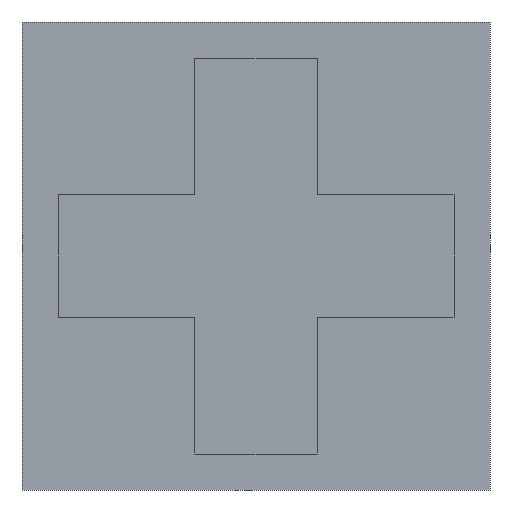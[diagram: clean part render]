
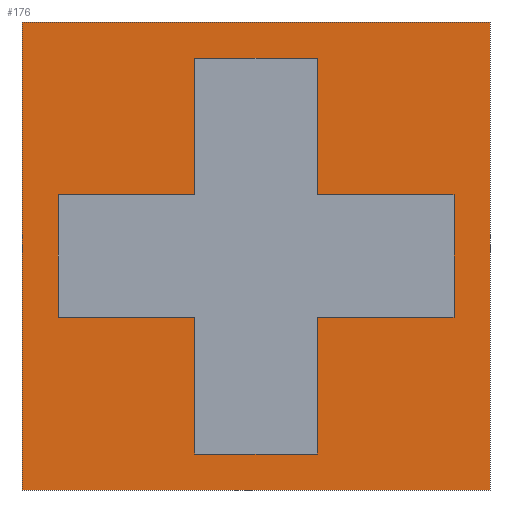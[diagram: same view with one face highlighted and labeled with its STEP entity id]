
A CAD part, front view. The second image highlights one B-rep face of the part: STEP entity #176.
In plain terms, the highlighted planar face has unit normal (0, -1, 0).
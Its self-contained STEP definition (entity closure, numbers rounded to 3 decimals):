
#32 = VERTEX_POINT('',#33);
#33 = CARTESIAN_POINT('',(-14.2,-12.8,21.5));
#39 = EDGE_CURVE('',#32,#40,#42,.T.);
#40 = VERTEX_POINT('',#41);
#41 = CARTESIAN_POINT('',(-14.2,-12.8,25.3));
#42 = LINE('',#43,#44);
#43 = CARTESIAN_POINT('',(-14.2,-12.8,21.));
#44 = VECTOR('',#45,1.);
#45 = DIRECTION('',(0.,0.,1.));
#156 = EDGE_CURVE('',#40,#157,#159,.T.);
#157 = VERTEX_POINT('',#158);
#158 = CARTESIAN_POINT('',(-18.,-12.8,25.3));
#159 = LINE('',#160,#161);
#160 = CARTESIAN_POINT('',(-18.5,-12.8,25.3));
#161 = VECTOR('',#162,1.);
#162 = DIRECTION('',(-1.,0.,0.));
#176 = ADVANCED_FACE('',(#177,#211),#293,.F.);
#177 = FACE_BOUND('',#178,.F.);
#178 = EDGE_LOOP('',(#179,#189,#197,#205));
#179 = ORIENTED_EDGE('',*,*,#180,.F.);
#180 = EDGE_CURVE('',#181,#183,#185,.T.);
#181 = VERTEX_POINT('',#182);
#182 = CARTESIAN_POINT('',(-19.,-12.8,20.5));
#183 = VERTEX_POINT('',#184);
#184 = CARTESIAN_POINT('',(-6.,-12.8,20.5));
#185 = LINE('',#186,#187);
#186 = CARTESIAN_POINT('',(-19.,-12.8,20.5));
#187 = VECTOR('',#188,1.);
#188 = DIRECTION('',(1.,0.,0.));
#189 = ORIENTED_EDGE('',*,*,#190,.T.);
#190 = EDGE_CURVE('',#181,#191,#193,.T.);
#191 = VERTEX_POINT('',#192);
#192 = CARTESIAN_POINT('',(-19.,-12.8,33.5));
#193 = LINE('',#194,#195);
#194 = CARTESIAN_POINT('',(-19.,-12.8,20.5));
#195 = VECTOR('',#196,1.);
#196 = DIRECTION('',(0.,0.,1.));
#197 = ORIENTED_EDGE('',*,*,#198,.T.);
#198 = EDGE_CURVE('',#191,#199,#201,.T.);
#199 = VERTEX_POINT('',#200);
#200 = CARTESIAN_POINT('',(-6.,-12.8,33.5));
#201 = LINE('',#202,#203);
#202 = CARTESIAN_POINT('',(-19.,-12.8,33.5));
#203 = VECTOR('',#204,1.);
#204 = DIRECTION('',(1.,0.,0.));
#205 = ORIENTED_EDGE('',*,*,#206,.F.);
#206 = EDGE_CURVE('',#183,#199,#207,.T.);
#207 = LINE('',#208,#209);
#208 = CARTESIAN_POINT('',(-6.,-12.8,20.5));
#209 = VECTOR('',#210,1.);
#210 = DIRECTION('',(0.,0.,1.));
#211 = FACE_BOUND('',#212,.F.);
#212 = EDGE_LOOP('',(#213,#214,#222,#230,#238,#246,#254,#262,#270,#278,
    #286,#292));
#213 = ORIENTED_EDGE('',*,*,#39,.F.);
#214 = ORIENTED_EDGE('',*,*,#215,.F.);
#215 = EDGE_CURVE('',#216,#32,#218,.T.);
#216 = VERTEX_POINT('',#217);
#217 = CARTESIAN_POINT('',(-10.8,-12.8,21.5));
#218 = LINE('',#219,#220);
#219 = CARTESIAN_POINT('',(-16.6,-12.8,21.5));
#220 = VECTOR('',#221,1.);
#221 = DIRECTION('',(-1.,0.,0.));
#222 = ORIENTED_EDGE('',*,*,#223,.T.);
#223 = EDGE_CURVE('',#216,#224,#226,.T.);
#224 = VERTEX_POINT('',#225);
#225 = CARTESIAN_POINT('',(-10.8,-12.8,25.3));
#226 = LINE('',#227,#228);
#227 = CARTESIAN_POINT('',(-10.8,-12.8,21.));
#228 = VECTOR('',#229,1.);
#229 = DIRECTION('',(0.,0.,1.));
#230 = ORIENTED_EDGE('',*,*,#231,.F.);
#231 = EDGE_CURVE('',#232,#224,#234,.T.);
#232 = VERTEX_POINT('',#233);
#233 = CARTESIAN_POINT('',(-7.,-12.8,25.3));
#234 = LINE('',#235,#236);
#235 = CARTESIAN_POINT('',(-18.5,-12.8,25.3));
#236 = VECTOR('',#237,1.);
#237 = DIRECTION('',(-1.,0.,0.));
#238 = ORIENTED_EDGE('',*,*,#239,.T.);
#239 = EDGE_CURVE('',#232,#240,#242,.T.);
#240 = VERTEX_POINT('',#241);
#241 = CARTESIAN_POINT('',(-7.,-12.8,28.7));
#242 = LINE('',#243,#244);
#243 = CARTESIAN_POINT('',(-7.,-12.8,22.9));
#244 = VECTOR('',#245,1.);
#245 = DIRECTION('',(0.,0.,1.));
#246 = ORIENTED_EDGE('',*,*,#247,.T.);
#247 = EDGE_CURVE('',#240,#248,#250,.T.);
#248 = VERTEX_POINT('',#249);
#249 = CARTESIAN_POINT('',(-10.8,-12.8,28.7));
#250 = LINE('',#251,#252);
#251 = CARTESIAN_POINT('',(-18.5,-12.8,28.7));
#252 = VECTOR('',#253,1.);
#253 = DIRECTION('',(-1.,0.,0.));
#254 = ORIENTED_EDGE('',*,*,#255,.T.);
#255 = EDGE_CURVE('',#248,#256,#258,.T.);
#256 = VERTEX_POINT('',#257);
#257 = CARTESIAN_POINT('',(-10.8,-12.8,32.5));
#258 = LINE('',#259,#260);
#259 = CARTESIAN_POINT('',(-10.8,-12.8,21.));
#260 = VECTOR('',#261,1.);
#261 = DIRECTION('',(0.,0.,1.));
#262 = ORIENTED_EDGE('',*,*,#263,.T.);
#263 = EDGE_CURVE('',#256,#264,#266,.T.);
#264 = VERTEX_POINT('',#265);
#265 = CARTESIAN_POINT('',(-14.2,-12.8,32.5));
#266 = LINE('',#267,#268);
#267 = CARTESIAN_POINT('',(-16.6,-12.8,32.5));
#268 = VECTOR('',#269,1.);
#269 = DIRECTION('',(-1.,0.,0.));
#270 = ORIENTED_EDGE('',*,*,#271,.F.);
#271 = EDGE_CURVE('',#272,#264,#274,.T.);
#272 = VERTEX_POINT('',#273);
#273 = CARTESIAN_POINT('',(-14.2,-12.8,28.7));
#274 = LINE('',#275,#276);
#275 = CARTESIAN_POINT('',(-14.2,-12.8,21.));
#276 = VECTOR('',#277,1.);
#277 = DIRECTION('',(0.,0.,1.));
#278 = ORIENTED_EDGE('',*,*,#279,.T.);
#279 = EDGE_CURVE('',#272,#280,#282,.T.);
#280 = VERTEX_POINT('',#281);
#281 = CARTESIAN_POINT('',(-18.,-12.8,28.7));
#282 = LINE('',#283,#284);
#283 = CARTESIAN_POINT('',(-18.5,-12.8,28.7));
#284 = VECTOR('',#285,1.);
#285 = DIRECTION('',(-1.,0.,0.));
#286 = ORIENTED_EDGE('',*,*,#287,.F.);
#287 = EDGE_CURVE('',#157,#280,#288,.T.);
#288 = LINE('',#289,#290);
#289 = CARTESIAN_POINT('',(-18.,-12.8,22.9));
#290 = VECTOR('',#291,1.);
#291 = DIRECTION('',(0.,0.,1.));
#292 = ORIENTED_EDGE('',*,*,#156,.F.);
#293 = PLANE('',#294);
#294 = AXIS2_PLACEMENT_3D('',#295,#296,#297);
#295 = CARTESIAN_POINT('',(-19.,-12.8,20.5));
#296 = DIRECTION('',(0.,1.,0.));
#297 = DIRECTION('',(0.,0.,1.));
